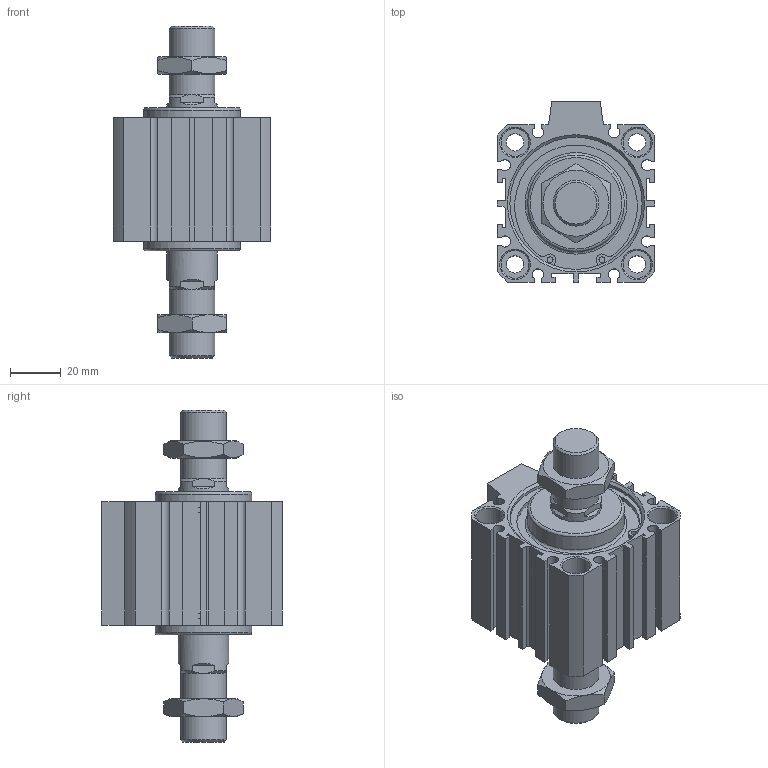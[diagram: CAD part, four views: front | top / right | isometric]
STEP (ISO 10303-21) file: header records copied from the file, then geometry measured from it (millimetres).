
FILE_DESCRIPTION((''),'2;1');
FILE_NAME('I:\3D電子目錄\氣缸\JDD\JDD-BS\JDD50-BS\JDD50x10-BS.stp','2007-02-27T15:04:28',('662F206'),(''),'Autodesk Inventor 10','Autodesk Inventor 10','');
FILE_SCHEMA(('AUTOMOTIVE_DESIGN { 1 0 10303 214 1 1 1 1 }'));
Length unit declared in the file: millimetre
Products named in the file (3): JDD50-BS; R 形環 52
Assembly tree (3 placements, depth 2):
  JDD50-BS
    JDD50-BS
    R 形環 52  x2
Bounding box: 62 x 71 x 130.6 mm (x, y, z)
Volume: 191901.1 mm3; surface area: 45679.8 mm2
Topology: 3 solids, 3 shells, 231 faces, 561 edges, 362 vertices
Faces by surface type: plane 133, cylinder 56, cone 38, bspline 2, torus 2
Full cylindrical faces by diameter (mm): 2.3 x4, 2.7 x2, 6.8 x4, 11 x8, 18 x4, 20 x2, 38 x2, 52 x4, 55 x2
Entity records: 6180 total; most frequent: CARTESIAN_POINT 1222, DIRECTION 1017, ORIENTED_EDGE 942, EDGE_CURVE 471, AXIS2_PLACEMENT_3D 375, VERTEX_POINT 334, EDGE_LOOP 309, VECTOR 267
